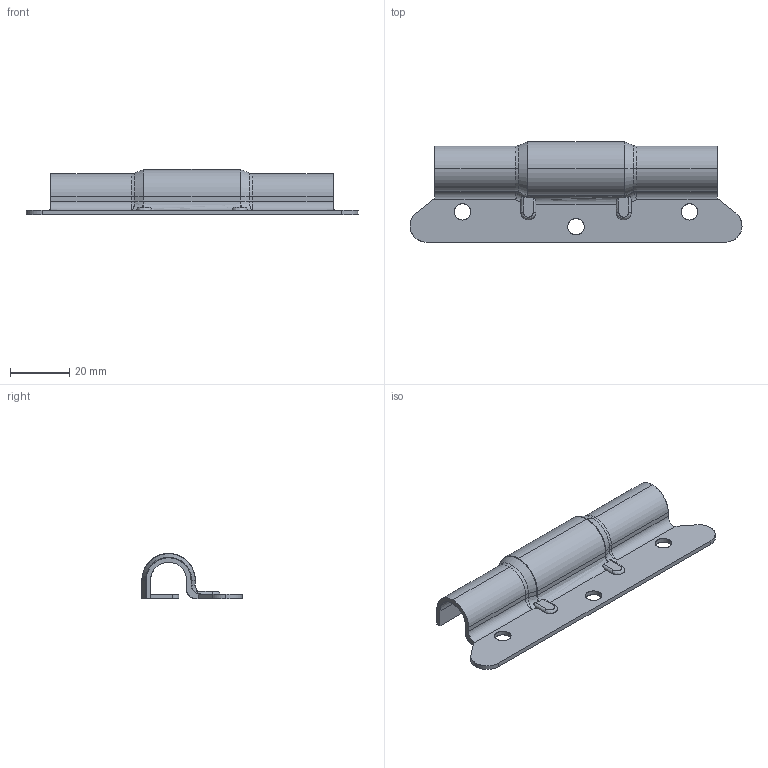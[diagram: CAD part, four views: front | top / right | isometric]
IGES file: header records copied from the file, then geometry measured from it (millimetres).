
Start section: SolidWorks IGES FILE using analytic representation for surfaces
Global section: file name: C:\Documents and Settings\lecoutey\Bureau\PR 312\312.015.00.IGS; native system: SolidWorks 2004 by SolidWorks Corporation; preprocessor: Version 5.3; author: lecoutey; date: 050408.145253; units: millimetre
Bounding box: 111.7 x 33.75 x 15.15 mm (x, y, z)
Surface area: 11020 mm2 (no closed solid volume)
Topology: 0 solids, 0 shells, 123 faces, 1235 edges, 1233 vertices
Faces by surface type: bspline 66, revolution 57
